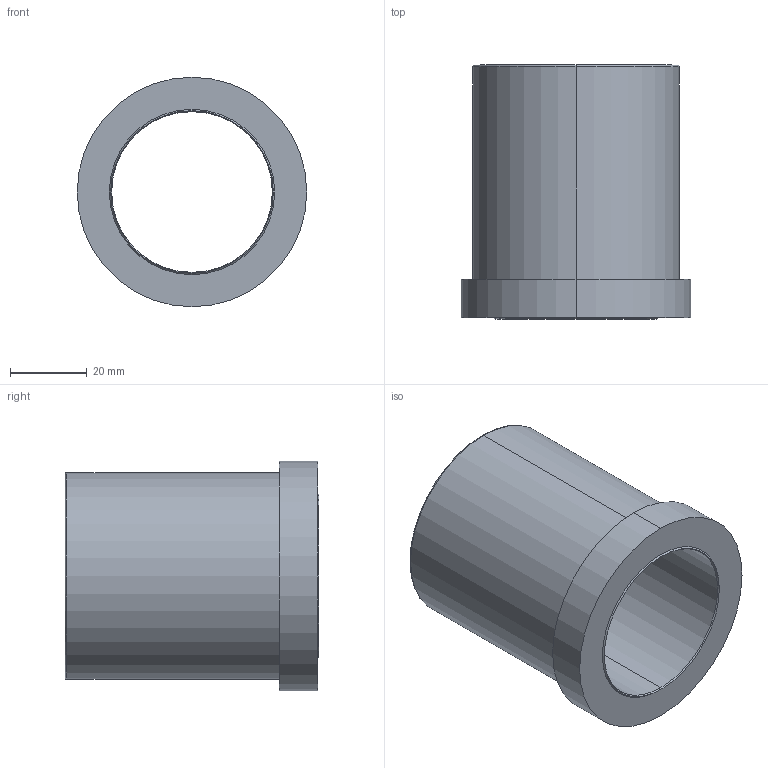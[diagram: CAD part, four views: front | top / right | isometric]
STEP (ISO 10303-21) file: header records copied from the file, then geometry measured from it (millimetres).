
FILE_DESCRIPTION (( 'STEP AP214' ), '1' );
FILE_NAME ('BR11W 42 x 66.STEP', '2020-07-16T11:31:47', ( 'August' ), ( '' ), 'SwSTEP 2.0', 'SolidWorks 2018', '' );
FILE_SCHEMA (( 'AUTOMOTIVE_DESIGN' ));
Length unit declared in the file: millimetre
Products named in the file (1): BR11W 42 x 66
Bounding box: 60 x 66.36 x 60 mm (x, y, z)
Volume: 65076.3 mm3; surface area: 22948.4 mm2
Topology: 1 solids, 1 shells, 17 faces, 34 edges, 20 vertices
Faces by surface type: cone 6, cylinder 6, plane 3, torus 2
Entity records: 484 total; most frequent: DIRECTION 92, CARTESIAN_POINT 72, ORIENTED_EDGE 68, AXIS2_PLACEMENT_3D 40, EDGE_CURVE 34, CIRCLE 22, EDGE_LOOP 20, VERTEX_POINT 20
